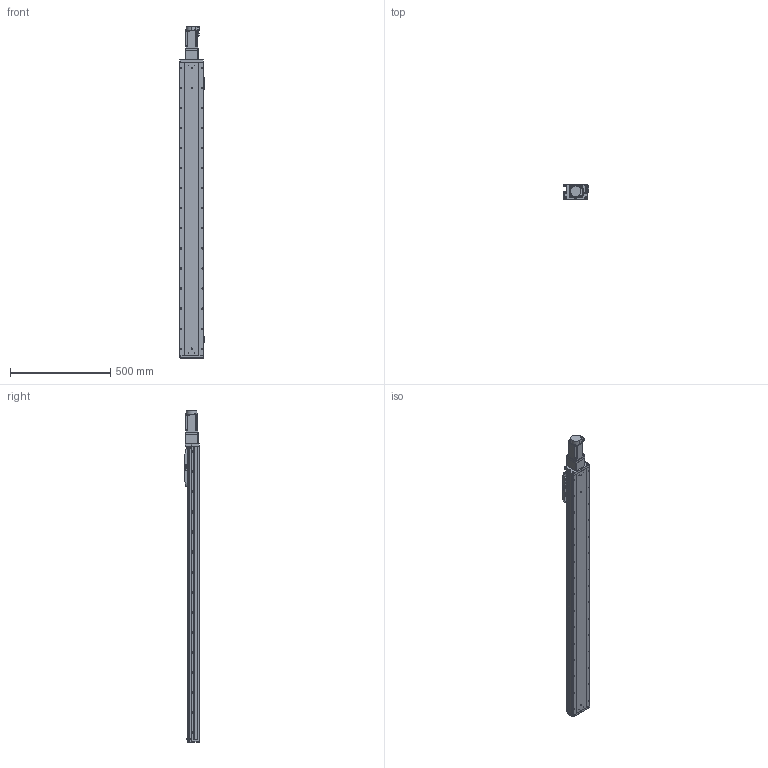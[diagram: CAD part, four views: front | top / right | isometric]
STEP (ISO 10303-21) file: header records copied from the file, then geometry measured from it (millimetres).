
FILE_DESCRIPTION (( 'STEP AP203' ), '1' );
FILE_NAME ('GTH12-1250-BC-M40-C4.step', '2023-08-28T01:04:54', ( '微软用户' ), ( '微软中国' ), 'SwSTEP 2.0', 'SolidWorks 2020', '' );
FILE_SCHEMA (( 'CONFIG_CONTROL_DESIGN' ));
Length unit declared in the file: millimetre
Products named in the file (19): GBT 70.1-M3℅6; GBT96.1-2002 3×0.8; GBT 70.1-M5×16; BTH-M3X5X6; GTH120-001_1250; GBT 70.3-M3℅8; CTHA86-006-1_CTHA86-006-2; GTH120-003; GTH80-022; CTHA86-013; GTH120-006; GTH80-028; CTHA86-027; GTH120-004; GTH50-023; hg-kn43j_-s100_; GTH120-013; GTH50-024; GTH12-1250-BC-M40-C4
Assembly tree (62 placements, depth 2):
  GTH12-1250-BC-M40-C4
    GTH120-001_1250
    GTH120-003
    GTH120-006
    GTH120-004
    GTH120-013
    GBT 70.1-M3℅6  x14
    GBT 70.1-M5×16  x10
    GBT 70.3-M3℅8  x6
    GTH80-022
    GTH80-028  x2
    GTH50-023  x3
    GTH50-024  x3
    GBT96.1-2002 3×0.8  x6
    BTH-M3X5X6  x8
    CTHA86-006-1_CTHA86-006-2
    CTHA86-013
    CTHA86-027
    hg-kn43j_-s100_
Bounding box: 125.7 x 76 x 1653.7 mm (x, y, z)
Volume: 10592849.5 mm3; surface area: 868893.9 mm2
Topology: 64 solids, 64 shells, 2602 faces, 6079 edges, 3709 vertices
Faces by surface type: plane 1304, cylinder 765, cone 355, torus 170, sphere 8
Entity records: 48596 total; most frequent: DIRECTION 8177, CARTESIAN_POINT 7838, ORIENTED_EDGE 7540, EDGE_CURVE 3770, AXIS2_PLACEMENT_3D 2857, LINE 2463, VECTOR 2463, VERTEX_POINT 2368
